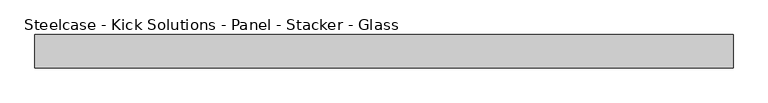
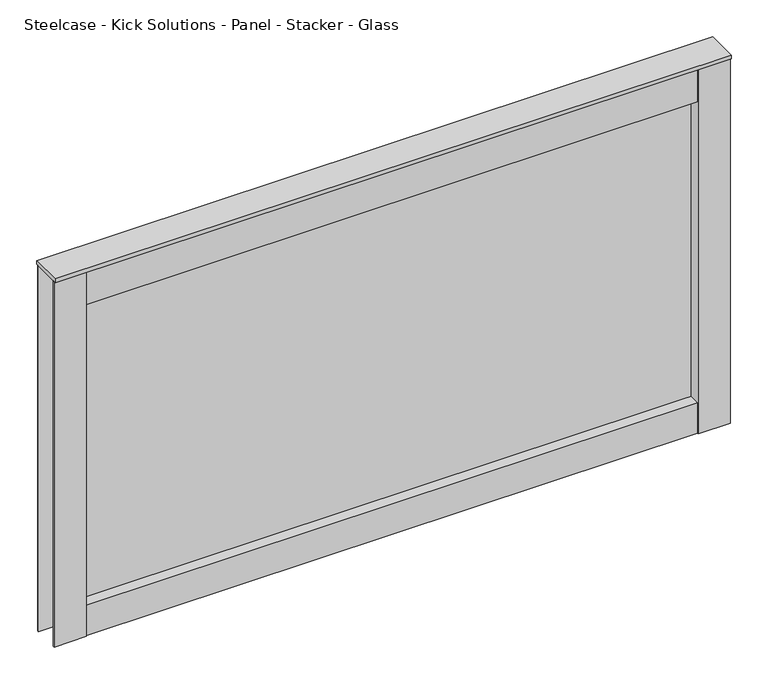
"""IFC4 building model written with IfcOpenShell, lengths in millimetres: furniture geometry, Steelcase - Kick Solutions - Panel - Stacker - Glass : 24H x 42W."""

from ifc_helpers import new_model, si_unit, frame, origin, place, context, project, spatial, polyline, outline, extrude, source, transform, mapped, element, save


def steelcase_kick_solutions_panel_stacker_glass_35d8895c(model_context):
    return source(origin(), model_context, "Body", "SweptSolid", [
        extrude(outline(polyline([(1016.0006661, -5.08), (1016.0006661, -45.7200015), (50.8006646, -45.7200015), (50.8006646, -5.08), (1016.0006661, -5.08)])), frame((0.0, 0.0, 1066.8), z_axis=(0.0, 0.0, 1.0), x_axis=(1.0, 0.0, 0.0)), (0.0, 0.0, 1.0), 50.6830951),
        extrude(outline(polyline([(1016.0006661, -5.08), (1016.0006661, -45.7200015), (50.8006646, -45.7200015), (50.8006646, -5.08), (1016.0006661, -5.08)])), frame((0.0, 0.0, 1619.25), z_axis=(0.0, 0.0, 1.0), x_axis=(1.0, 0.0, 0.0)), (0.0, 0.0, 1.0), 57.15),
        extrude(outline(polyline([(50.8006646, -3.1743148), (50.8006646, -47.6243142), (0.0, -47.6243142), (0.0, -45.7200015), (47.7526646, -45.7200015), (47.7526646, -5.08), (0.0, -5.08), (0.0, -3.1743148), (50.8006646, -3.1743148)])), frame((0.0, 0.0, 1066.8), z_axis=(0.0, 0.0, 1.0), x_axis=(1.0, 0.0, 0.0)), (0.0, 0.0, 1.0), 609.6),
        extrude(outline(polyline([(1016.0006661, -3.1743148), (1066.8, -3.1743148), (1066.8, -5.08), (1019.0486661, -5.08), (1019.0486661, -45.7200015), (1066.8, -45.7200015), (1066.8, -47.6243142), (1016.0006661, -47.6243142), (1016.0006661, -3.1743148)])), frame((0.0, 0.0, 1066.8), z_axis=(0.0, 0.0, 1.0), x_axis=(1.0, 0.0, 0.0)), (0.0, 0.0, 1.0), 609.6),
        extrude(outline(polyline([(1016.0006661, -28.422537), (50.8006646, -28.422537), (50.8006646, -25.4), (1016.0006661, -25.4), (1016.0006661, -28.422537)])), frame((0.0, 0.0, 1117.4830951), z_axis=(0.0, 0.0, 1.0), x_axis=(1.0, 0.0, 0.0)), (0.0, 0.0, 1.0), 501.7669049),
        extrude(outline(polyline([(1066.8, 0.0), (1066.8, -50.8000015), (0.0, -50.8000015), (0.0, 0.0), (1066.8, 0.0)])), frame((0.0, 0.0, 1676.4), z_axis=(0.0, 0.0, 1.0), x_axis=(1.0, 0.0, 0.0)), (0.0, 0.0, 1.0), 6.35),
    ])


if __name__ == "__main__":
    model = new_model("IFC4")
    model_context = context("Model", 3, world=origin())
    ifc_project = project(units=[si_unit("LENGTHUNIT", "METRE", prefix="MILLI")], contexts=[model_context])
    site = spatial("IfcSite", under=ifc_project)
    building = spatial("IfcBuilding", under=site)
    placement = place(None, origin())
    steelcase_kick_solutions_panel_stacker_glass_shape = steelcase_kick_solutions_panel_stacker_glass_35d8895c(model_context)
    element("IfcFurniture", 1, ObjectType="Steelcase - Kick Solutions - Panel - Stacker - Glass : 24H x 42W", at=placement, inside=building, context=model_context, shape_type="MappedRepresentation", body=[
        mapped(steelcase_kick_solutions_panel_stacker_glass_shape, transform((0.0, 0.0, 0.0), x_axis=(1.0, 0.0, 0.0), y_axis=(0.0, 1.0, 0.0), z_axis=(0.0, 0.0, 1.0))),
    ])
    save(model, "model.ifc")
